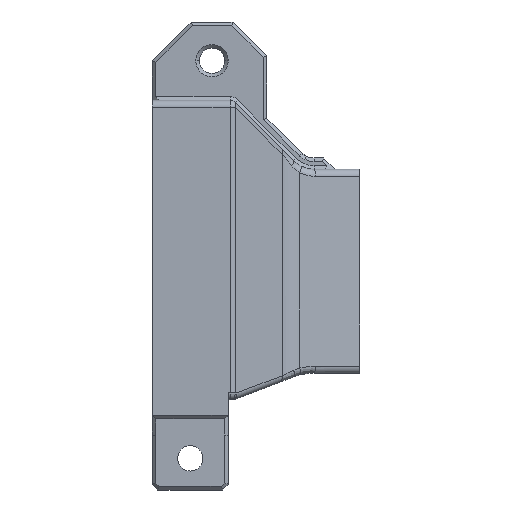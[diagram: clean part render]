
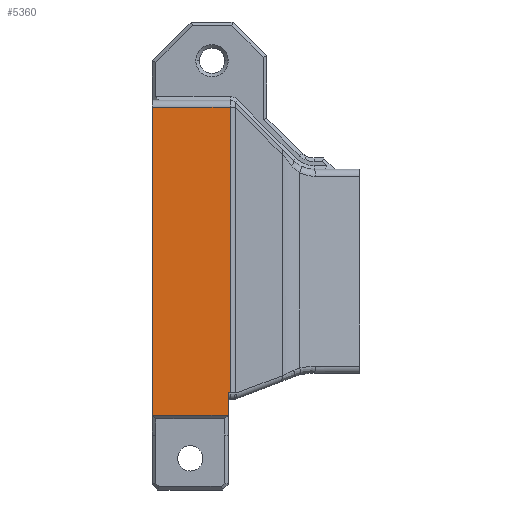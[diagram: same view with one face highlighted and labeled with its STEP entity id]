
A CAD part, front view. The second image highlights one B-rep face of the part: STEP entity #5360.
In plain terms, the highlighted planar face has unit normal (0, -1, 0).
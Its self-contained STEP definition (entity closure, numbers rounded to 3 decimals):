
#1067=CARTESIAN_POINT('Vertex',(0.586,-21.2,-20.3)) ;
#1070=CARTESIAN_POINT('Line Origine',(-4.649,-21.2,-20.3)) ;
#1074=CARTESIAN_POINT('Vertex',(0.3,-21.2,-20.3)) ;
#1266=CARTESIAN_POINT('Vertex',(0.586,-21.2,20.3)) ;
#1304=CARTESIAN_POINT('Line Origine',(0.586,-21.2,0.)) ;
#3379=CARTESIAN_POINT('Vertex',(-10.5,-21.2,20.3)) ;
#3382=CARTESIAN_POINT('Line Origine',(-4.899,-21.2,20.3)) ;
#5328=CARTESIAN_POINT('Axis2P3D Location',(0.,-21.2,0.)) ;
#5333=CARTESIAN_POINT('Line Origine',(0.3,-21.2,-21.9)) ;
#5337=CARTESIAN_POINT('Vertex',(0.3,-21.2,-23.5)) ;
#5340=CARTESIAN_POINT('Line Origine',(-10.5,-21.2,-1.6)) ;
#5344=CARTESIAN_POINT('Vertex',(-10.5,-21.2,-23.5)) ;
#5347=CARTESIAN_POINT('Line Origine',(-5.1,-21.2,-23.5)) ;
#1071=DIRECTION('Vector Direction',(1.,0.,0.)) ;
#1305=DIRECTION('Vector Direction',(0.,0.,1.)) ;
#3383=DIRECTION('Vector Direction',(-1.,0.,0.)) ;
#5329=DIRECTION('Axis2P3D Direction',(0.,-1.,0.)) ;
#5330=DIRECTION('Axis2P3D XDirection',(1.,0.,0.)) ;
#5334=DIRECTION('Vector Direction',(0.,0.,-1.)) ;
#5341=DIRECTION('Vector Direction',(0.,0.,1.)) ;
#5348=DIRECTION('Vector Direction',(-1.,0.,0.)) ;
#5331=AXIS2_PLACEMENT_3D('Plane Axis2P3D',#5328,#5329,#5330) ;
#5353=ORIENTED_EDGE('',*,*,#5339,.F.) ;
#5354=ORIENTED_EDGE('',*,*,#1076,.T.) ;
#5355=ORIENTED_EDGE('',*,*,#1308,.T.) ;
#5356=ORIENTED_EDGE('',*,*,#3386,.F.) ;
#5357=ORIENTED_EDGE('',*,*,#5346,.F.) ;
#5358=ORIENTED_EDGE('',*,*,#5351,.F.) ;
#1072=VECTOR('Line Direction',#1071,1.) ;
#1306=VECTOR('Line Direction',#1305,1.) ;
#3384=VECTOR('Line Direction',#3383,1.) ;
#5335=VECTOR('Line Direction',#5334,1.) ;
#5342=VECTOR('Line Direction',#5341,1.) ;
#5349=VECTOR('Line Direction',#5348,1.) ;
#5360=ADVANCED_FACE('PartBody',(#5359),#5332,.T.) ;
#1076=EDGE_CURVE('',#1075,#1068,#1073,.T.) ;
#1308=EDGE_CURVE('',#1068,#1267,#1307,.T.) ;
#3386=EDGE_CURVE('',#3380,#1267,#3385,.F.) ;
#5339=EDGE_CURVE('',#1075,#5338,#5336,.T.) ;
#5346=EDGE_CURVE('',#5345,#3380,#5343,.T.) ;
#5351=EDGE_CURVE('',#5338,#5345,#5350,.T.) ;
#5352=EDGE_LOOP('',(#5353,#5354,#5355,#5356,#5357,#5358)) ;
#5359=FACE_OUTER_BOUND('',#5352,.T.) ;
#1073=LINE('Line',#1070,#1072) ;
#1307=LINE('Line',#1304,#1306) ;
#3385=LINE('Line',#3382,#3384) ;
#5336=LINE('Line',#5333,#5335) ;
#5343=LINE('Line',#5340,#5342) ;
#5350=LINE('Line',#5347,#5349) ;
#5332=PLANE('Plane',#5331) ;
#1068=VERTEX_POINT('',#1067) ;
#1075=VERTEX_POINT('',#1074) ;
#1267=VERTEX_POINT('',#1266) ;
#3380=VERTEX_POINT('',#3379) ;
#5338=VERTEX_POINT('',#5337) ;
#5345=VERTEX_POINT('',#5344) ;
